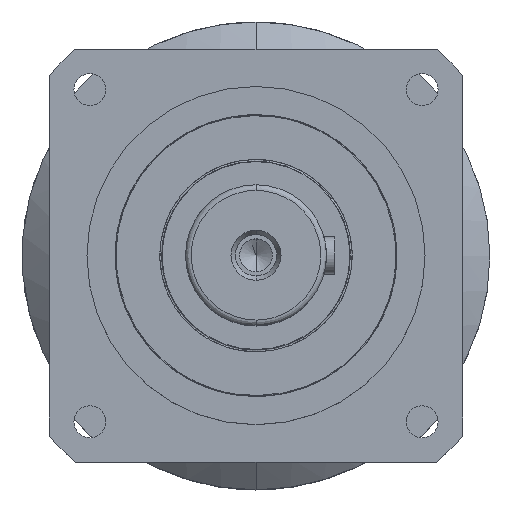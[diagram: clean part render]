
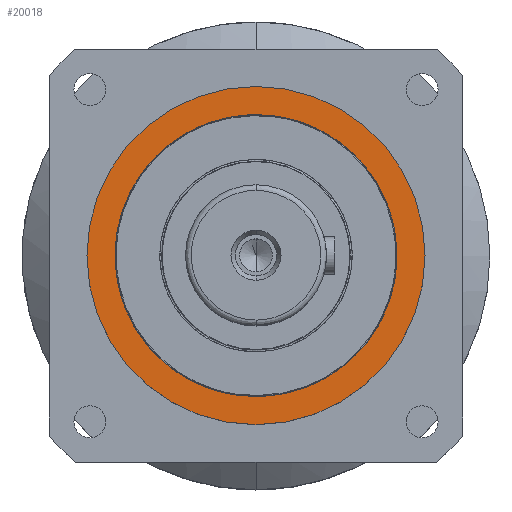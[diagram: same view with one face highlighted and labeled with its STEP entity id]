
A CAD part, top view. The second image highlights one B-rep face of the part: STEP entity #20018.
In plain terms, the highlighted planar face has unit normal (0, 0, 1) as drawn and (0, 0, -1) by its records, which use the part's own axes.
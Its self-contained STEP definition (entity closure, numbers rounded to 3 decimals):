
#500 = CARTESIAN_POINT ( 'NONE',  ( 0., -75., -124. ) ) ;
#1321 = PLANE ( 'NONE',  #29998 ) ;
#1852 = CARTESIAN_POINT ( 'NONE',  ( 0., 0., -124. ) ) ;
#4103 = VERTEX_POINT ( 'NONE', #36379 ) ;
#5016 = DIRECTION ( 'NONE',  ( 0., 1., 0. ) ) ;
#6859 = CARTESIAN_POINT ( 'NONE',  ( 0., 0., -124. ) ) ;
#8761 = AXIS2_PLACEMENT_3D ( 'NONE', #15587, #37476, #18805 ) ;
#9991 = DIRECTION ( 'NONE',  ( 0., 1., 0. ) ) ;
#10817 = AXIS2_PLACEMENT_3D ( 'NONE', #17407, #39261, #20576 ) ;
#11531 = EDGE_CURVE ( 'NONE', #15438, #4103, #22067, .T. ) ;
#12146 = ORIENTED_EDGE ( 'NONE', *, *, #21027, .F. ) ;
#12318 = CARTESIAN_POINT ( 'NONE',  ( 0., -90., -124. ) ) ;
#14091 = DIRECTION ( 'NONE',  ( 0., -1., 0. ) ) ;
#15296 = ORIENTED_EDGE ( 'NONE', *, *, #18027, .F. ) ;
#15396 = CIRCLE ( 'NONE', #10817, 75. ) ;
#15438 = VERTEX_POINT ( 'NONE', #500 ) ;
#15587 = CARTESIAN_POINT ( 'NONE',  ( 0., 0., -124. ) ) ;
#16027 = VERTEX_POINT ( 'NONE', #35231 ) ;
#16103 = EDGE_LOOP ( 'NONE', ( #15296, #31351 ) ) ;
#17407 = CARTESIAN_POINT ( 'NONE',  ( 0., 0., -124. ) ) ;
#18027 = EDGE_CURVE ( 'NONE', #4103, #15438, #15396, .T. ) ;
#18805 = DIRECTION ( 'NONE',  ( 0., 1., 0. ) ) ;
#19441 = AXIS2_PLACEMENT_3D ( 'NONE', #6859, #28756, #9991 ) ;
#20018 = ADVANCED_FACE ( 'NONE', ( #23662, #40240 ), #1321, .F. ) ;
#20576 = DIRECTION ( 'NONE',  ( 0., 1., 0. ) ) ;
#21027 = EDGE_CURVE ( 'NONE', #33246, #16027, #30404, .T. ) ;
#22067 = CIRCLE ( 'NONE', #19441, 75. ) ;
#23022 = EDGE_CURVE ( 'NONE', #16027, #33246, #26956, .T. ) ;
#23662 = FACE_OUTER_BOUND ( 'NONE', #39994, .T. ) ;
#23820 = DIRECTION ( 'NONE',  ( 0., 0., 1. ) ) ;
#26956 = CIRCLE ( 'NONE', #29254, 90. ) ;
#28756 = DIRECTION ( 'NONE',  ( 0., 0., -1. ) ) ;
#29254 = AXIS2_PLACEMENT_3D ( 'NONE', #1852, #23820, #5016 ) ;
#29679 = CARTESIAN_POINT ( 'NONE',  ( 75., 0., -124. ) ) ;
#29998 = AXIS2_PLACEMENT_3D ( 'NONE', #29679, #32831, #14091 ) ;
#30404 = CIRCLE ( 'NONE', #8761, 90. ) ;
#31351 = ORIENTED_EDGE ( 'NONE', *, *, #11531, .F. ) ;
#32831 = DIRECTION ( 'NONE',  ( 0., 0., 1. ) ) ;
#33246 = VERTEX_POINT ( 'NONE', #12318 ) ;
#34203 = ORIENTED_EDGE ( 'NONE', *, *, #23022, .F. ) ;
#35231 = CARTESIAN_POINT ( 'NONE',  ( 0., 90., -124. ) ) ;
#36379 = CARTESIAN_POINT ( 'NONE',  ( 0., 75., -124. ) ) ;
#37476 = DIRECTION ( 'NONE',  ( 0., 0., 1. ) ) ;
#39261 = DIRECTION ( 'NONE',  ( 0., 0., -1. ) ) ;
#39994 = EDGE_LOOP ( 'NONE', ( #34203, #12146 ) ) ;
#40240 = FACE_BOUND ( 'NONE', #16103, .T. ) ;
